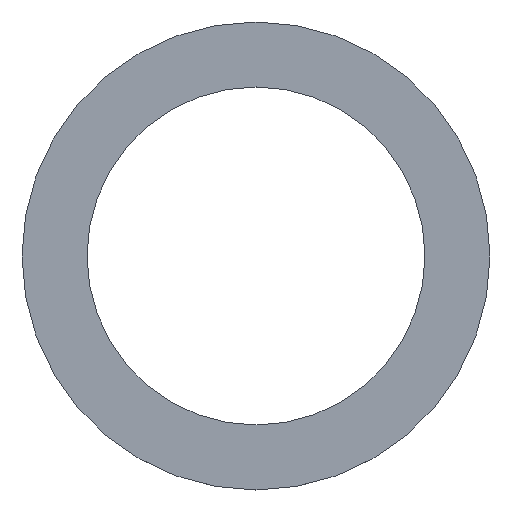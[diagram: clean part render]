
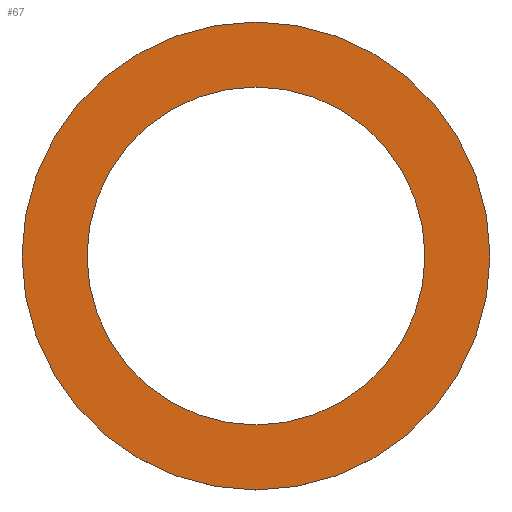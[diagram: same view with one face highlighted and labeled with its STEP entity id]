
A CAD part, top view. The second image highlights one B-rep face of the part: STEP entity #67.
In plain terms, the highlighted planar face has unit normal (0, 0, 1).
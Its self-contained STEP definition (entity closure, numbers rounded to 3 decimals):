
#67=ADVANCED_FACE('',(#103,#105),#107,.T.);
#103=FACE_BOUND('',#104,.T.);
#104=EDGE_LOOP('',(#132));
#105=FACE_BOUND('',#106,.T.);
#106=EDGE_LOOP('',(#133));
#107=PLANE('',#108);
#108=AXIS2_PLACEMENT_3D('',#109,#110,#111);
#109=CARTESIAN_POINT('',(0.,0.,0.6));
#110=DIRECTION('',(0.,0.,1.));
#111=DIRECTION('',(1.,0.,0.));
#132=ORIENTED_EDGE('',*,*,#140,.T.);
#133=ORIENTED_EDGE('',*,*,#141,.T.);
#140=EDGE_CURVE('',#146,#146,#147,.T.);
#141=EDGE_CURVE('',#148,#148,#149,.F.);
#146=VERTEX_POINT('',#160);
#147=CIRCLE('',#161,27.);
#148=VERTEX_POINT('',#165);
#149=CIRCLE('',#166,19.5);
#160=CARTESIAN_POINT('',(27.,0.,0.6));
#161=AXIS2_PLACEMENT_3D('',#162,#163,#164);
#162=CARTESIAN_POINT('',(0.,0.,0.6));
#163=DIRECTION('',(0.,0.,1.));
#164=DIRECTION('',(1.,0.,0.));
#165=CARTESIAN_POINT('',(19.5,0.,0.6));
#166=AXIS2_PLACEMENT_3D('',#167,#168,#169);
#167=CARTESIAN_POINT('',(0.,0.,0.6));
#168=DIRECTION('',(0.,0.,1.));
#169=DIRECTION('',(1.,0.,0.));
